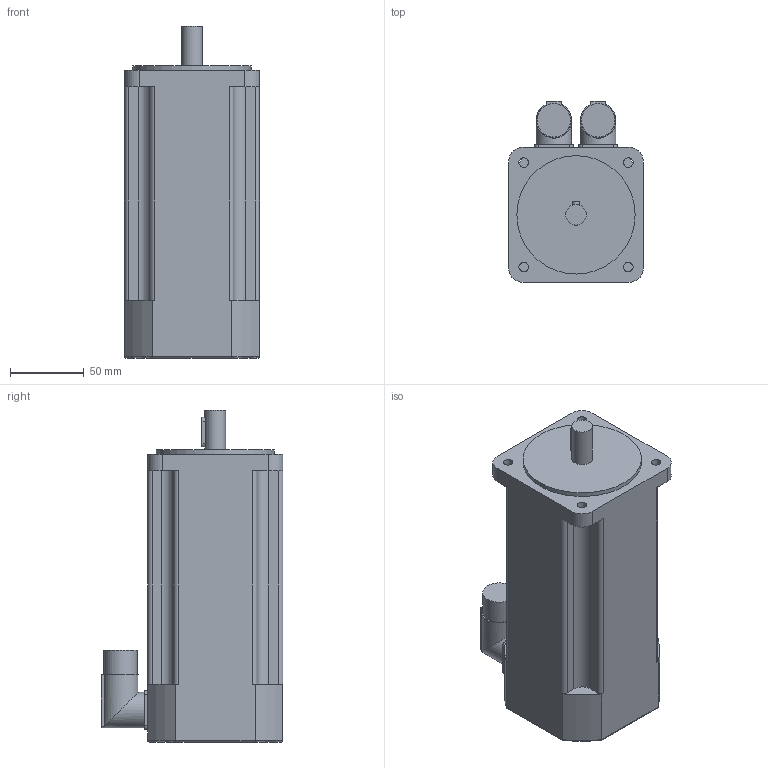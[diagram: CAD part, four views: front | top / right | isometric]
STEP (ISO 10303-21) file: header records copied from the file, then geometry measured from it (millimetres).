
FILE_DESCRIPTION(/* description */ (''),/* implementation_level */ '2;1');
FILE_NAME(/* name */ '\\Lafnas01\disegni\Archivi Lafert\3D\CAD 3D\MODELLI\Assiemi clienti\Serad\Modelli 3D Serad\B56Q\Resolver\Res With Brake\B56G5Qxx6B052033.ipt.stp',/* time_stamp */ '2015-09-07T10:50:18+02:00',/* author */ ('Pastrello Ylenia'),/* organization */ (''),/* preprocessor_version */ 'ST-DEVELOPER v15.6',/* originating_system */ 'Autodesk Inventor 2015',/* authorisation */ '');
FILE_SCHEMA (('AUTOMOTIVE_DESIGN { 1 0 10303 214 3 1 1 }'));
Length unit declared in the file: millimetre
Products named in the file (1): B56G5Qxx6B052033
Bounding box: 91.3 x 122.8 x 224.5 mm (x, y, z)
Volume: 1497739.5 mm3; surface area: 95156 mm2
Topology: 1 solids, 1 shells, 99 faces, 260 edges, 170 vertices
Faces by surface type: plane 49, cylinder 46, torus 4
Full cylindrical faces by diameter (mm): 6.5 x4, 14 x1, 22.7 x2, 24 x2, 80 x1
Entity records: 3176 total; most frequent: CARTESIAN_POINT 658, DIRECTION 534, ORIENTED_EDGE 500, EDGE_CURVE 250, AXIS2_PLACEMENT_3D 194, VERTEX_POINT 170, LINE 146, VECTOR 146
